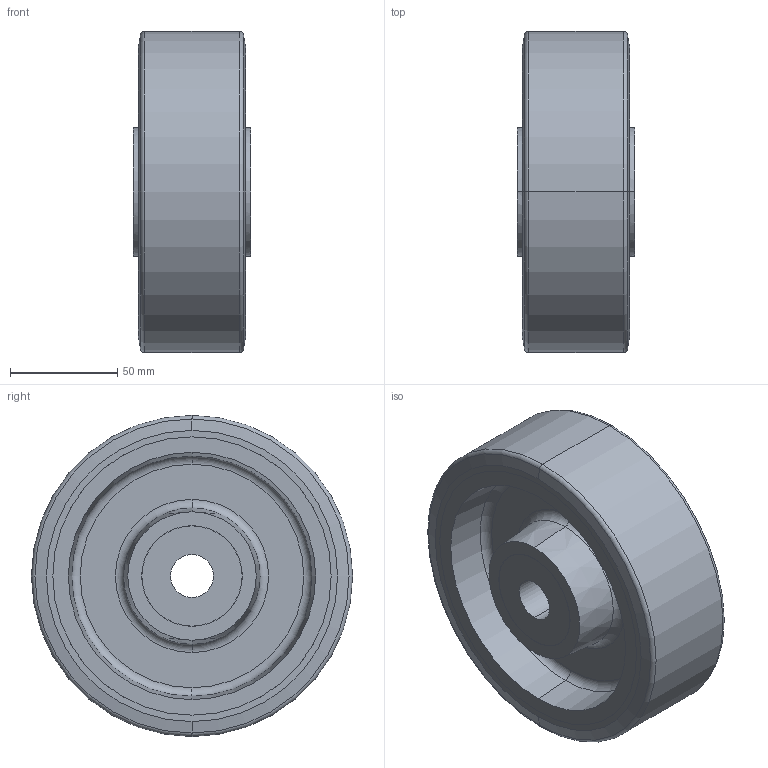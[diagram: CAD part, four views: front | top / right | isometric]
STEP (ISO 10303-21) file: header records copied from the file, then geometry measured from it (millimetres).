
FILE_DESCRIPTION (( 'STEP AP214' ), '1' );
FILE_NAME ('22887-150-K-A.step', '2024-10-28T09:27:00', ( '' ), ( '' ), 'SwSTEP 2.0', 'SolidWorks 2022', '' );
FILE_SCHEMA (( 'AUTOMOTIVE_DESIGN' ));
Length unit declared in the file: millimetre
Products named in the file (1): 22887-150-K-A
Bounding box: 55 x 150 x 150 mm (x, y, z)
Volume: 553780.5 mm3; surface area: 84272.2 mm2
Topology: 1 solids, 1 shells, 64 faces, 128 edges, 80 vertices
Faces by surface type: cylinder 24, plane 16, cone 12, torus 12
Entity records: 1976 total; most frequent: DIRECTION 350, CARTESIAN_POINT 273, ORIENTED_EDGE 256, AXIS2_PLACEMENT_3D 157, EDGE_CURVE 128, CIRCLE 92, EDGE_LOOP 80, VERTEX_POINT 80
